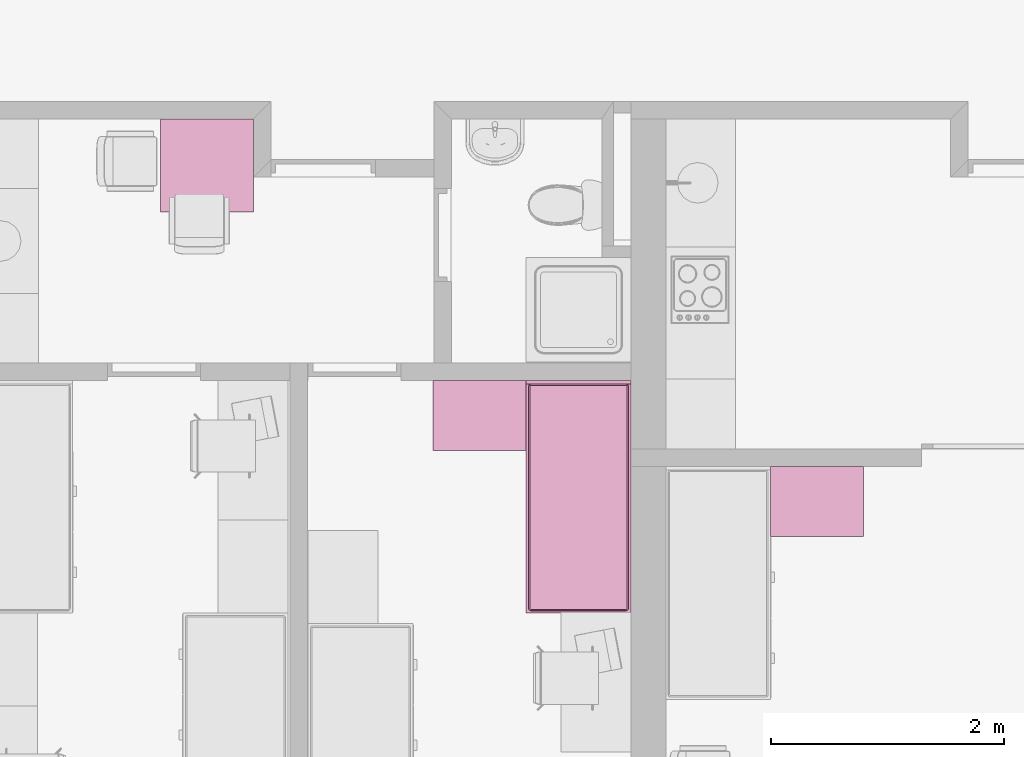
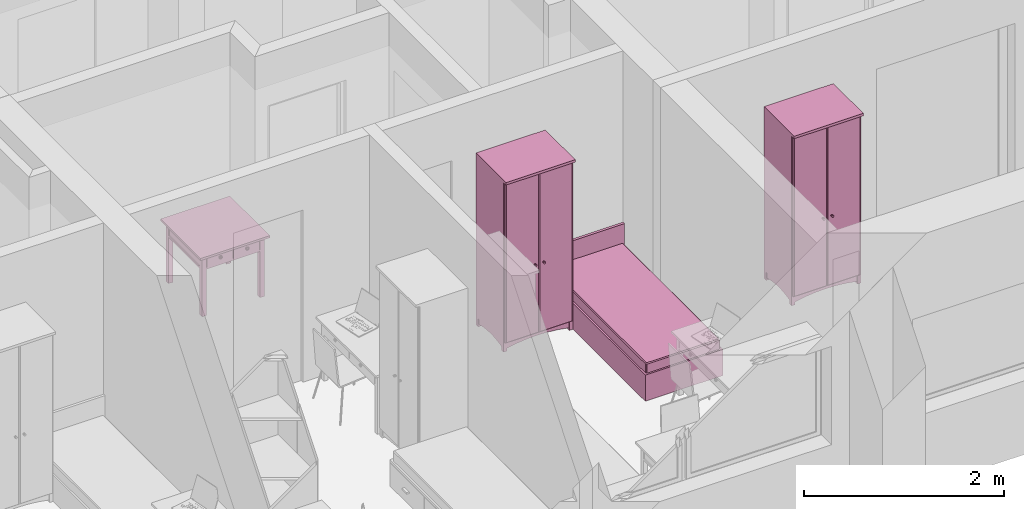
# One storey, part 118 of 172: 4 furnishings.
"""IFC2X3 building model written with IfcOpenShell, lengths in millimetres."""

from ifc_helpers import new_model, entity, si_unit, converted_unit, money_unit, direction, frame, origin_with_axes, place, context, subcontext, project, spatial, faceted_brep, source, transform, mapped, material, material_list, type_object, element, save


model = new_model("IFC2X3")

# Units and contexts
model_context = context("Model", 3, precision=1e-05, world=origin_with_axes(), true_north=direction((0.0, 1.0)))
body_context = subcontext(model_context, "Body", "Model", "MODEL_VIEW")
ifc_project = project(units=[si_unit("LENGTHUNIT", "METRE", prefix="MILLI"), si_unit("AREAUNIT", "SQUARE_METRE"), si_unit("VOLUMEUNIT", "CUBIC_METRE"), converted_unit("PLANEANGLEUNIT", "DEGREE", entity("IfcPlaneAngleMeasure", 0.0174532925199), si_unit("PLANEANGLEUNIT", "RADIAN"), dimensions=[0, 0, 0, 0, 0, 0, 0]), si_unit("SOLIDANGLEUNIT", "STERADIAN"), money_unit("USD"), converted_unit("TIMEUNIT", "Year", entity("IfcTimeMeasure", 31556926.0), si_unit("TIMEUNIT", "SECOND"), dimensions=[0, 0, 0, 0, 0, 0, 0]), si_unit("MASSUNIT", "GRAM"), si_unit("THERMODYNAMICTEMPERATUREUNIT", "DEGREE_CELSIUS"), si_unit("LUMINOUSINTENSITYUNIT", "LUMEN")], contexts=[model_context])

# Site, building, storey
site_placement = place(None, origin_with_axes())
site = spatial("IfcSite", under=ifc_project, at=site_placement, Name="Site", CompositionType="ELEMENT")
building_placement = place(site_placement, origin_with_axes())
building = spatial("IfcBuilding", under=site, at=building_placement, Name="Building", CompositionType="ELEMENT")
storey_placement = place(building_placement, frame((0.0, 0.0, 3200.0), z_axis=(0.0, 0.0, 1.0), x_axis=(1.0, 0.0, 0.0)))
storey = spatial("IfcBuildingStorey", under=building, at=storey_placement, Name="3KORRUS", CompositionType="ELEMENT", Elevation=3200.0)

# Furnishings
ifc_material = material(Name="Background")
ifc_material_list = material_list([ifc_material])
furnishing_element_type_1 = type_object("IfcFurnishingElementType", Name="Bed 19")
shared_shape_1 = source(origin_with_axes(), body_context, "Body", "Brep", [
    faceted_brep([(900.0, 1970.0, 0.0), (0.0, 1970.0, 0.0), (0.0, 2000.0, 0.0), (900.0, 2000.0, 0.0), (900.0, 1970.0, 660.0), (0.0, 1970.0, 660.0), (0.0, 2000.0, 660.0), (900.0, 2000.0, 660.0)], [[[0, 1, 2, 3]], [[1, 0, 4, 5]], [[2, 1, 5, 6]], [[3, 2, 6, 7]], [[0, 3, 7, 4]], [[5, 4, 7, 6]]]),
    faceted_brep([(900.0, 0.0, 0.0), (0.0, 0.0, 0.0), (0.0, 1970.0, 0.0), (900.0, 1970.0, 0.0), (900.0, 0.0, 320.0), (0.0, 0.0, 320.0), (0.0, 1970.0, 320.0), (900.0, 1970.0, 320.0)], [[[0, 1, 2, 3]], [[1, 0, 4, 5]], [[2, 1, 5, 6]], [[3, 2, 6, 7]], [[0, 3, 7, 4]], [[5, 4, 7, 6]]]),
    faceted_brep([(905.0, 10.0, 30.0), (900.0, 10.0, 30.0), (900.0, 695.0, 30.0), (905.0, 695.0, 30.0), (905.0, 10.0, 290.0), (900.0, 10.0, 290.0), (900.0, 695.0, 290.0), (905.0, 695.0, 290.0)], [[[0, 1, 2, 3]], [[1, 0, 4, 5]], [[2, 1, 5, 6]], [[3, 2, 6, 7]], [[0, 3, 7, 4]], [[5, 4, 7, 6]]]),
    faceted_brep([(935.0, 307.5, 150.0), (905.0, 307.5, 150.0), (905.0, 397.5, 150.0), (935.0, 397.5, 150.0), (935.0, 307.5, 170.0), (905.0, 307.5, 170.0), (905.0, 397.5, 170.0), (935.0, 397.5, 170.0)], [[[0, 1, 2, 3]], [[1, 0, 4, 5]], [[2, 1, 5, 6]], [[3, 2, 6, 7]], [[0, 3, 7, 4]], [[5, 4, 7, 6]]]),
    faceted_brep([(905.0, 705.0, 30.0), (900.0, 705.0, 30.0), (900.0, 1390.0, 30.0), (905.0, 1390.0, 30.0), (905.0, 705.0, 290.0), (900.0, 705.0, 290.0), (900.0, 1390.0, 290.0), (905.0, 1390.0, 290.0)], [[[0, 1, 2, 3]], [[1, 0, 4, 5]], [[2, 1, 5, 6]], [[3, 2, 6, 7]], [[0, 3, 7, 4]], [[5, 4, 7, 6]]]),
    faceted_brep([(935.0, 1002.5, 150.0), (905.0, 1002.5, 150.0), (905.0, 1092.5, 150.0), (935.0, 1092.5, 150.0), (935.0, 1002.5, 170.0), (905.0, 1002.5, 170.0), (905.0, 1092.5, 170.0), (935.0, 1092.5, 170.0)], [[[0, 1, 2, 3]], [[1, 0, 4, 5]], [[2, 1, 5, 6]], [[3, 2, 6, 7]], [[0, 3, 7, 4]], [[5, 4, 7, 6]]]),
    faceted_brep([(20.0, 40.0, 350.0), (20.0, 1950.0, 350.0), (21.522, 1957.654, 350.0), (25.858, 1964.142, 350.0), (32.346, 1968.478, 350.0), (40.0, 1970.0, 350.0), (860.0, 1970.0, 350.0), (867.654, 1968.478, 350.0), (874.142, 1964.142, 350.0), (878.478, 1957.654, 350.0), (880.0, 1950.0, 350.0), (880.0, 40.0, 350.0), (878.478, 32.346, 350.0), (874.142, 25.858, 350.0), (867.654, 21.522, 350.0), (860.0, 20.0, 350.0), (40.0, 20.0, 350.0), (32.346, 21.522, 350.0), (25.858, 25.858, 350.0), (21.522, 32.346, 350.0), (20.0, 40.0, 420.0), (20.0, 1950.0, 420.0), (21.522, 1957.654, 420.0), (25.858, 1964.142, 420.0), (32.346, 1968.478, 420.0), (40.0, 1970.0, 420.0), (860.0, 1970.0, 420.0), (867.654, 1968.478, 420.0), (874.142, 1964.142, 420.0), (878.478, 1957.654, 420.0), (880.0, 1950.0, 420.0), (880.0, 40.0, 420.0), (878.478, 32.346, 420.0), (874.142, 25.858, 420.0), (867.654, 21.522, 420.0), (860.0, 20.0, 420.0), (40.0, 20.0, 420.0), (32.346, 21.522, 420.0), (25.858, 25.858, 420.0), (21.522, 32.346, 420.0), (21.522, 40.15, 427.654), (21.522, 1949.85, 427.654), (22.956, 1957.06, 427.654), (26.955, 1963.045, 427.654), (32.94, 1967.044, 427.654), (40.15, 1968.478, 427.654), (859.85, 1968.478, 427.654), (867.06, 1967.044, 427.654), (873.045, 1963.045, 427.654), (877.044, 1957.06, 427.654), (878.478, 1949.85, 427.654), (878.478, 40.15, 427.654), (877.044, 32.94, 427.654), (873.045, 26.955, 427.654), (867.06, 22.956, 427.654), (859.85, 21.522, 427.654), (40.15, 21.522, 427.654), (32.94, 22.956, 427.654), (26.955, 26.955, 427.654), (22.956, 32.94, 427.654), (32.346, 41.216, 438.478), (32.346, 1948.784, 438.478), (33.152, 1952.836, 438.478), (34.759, 1955.241, 438.478), (37.164, 1956.848, 438.478), (41.216, 1957.654, 438.478), (858.784, 1957.654, 438.478), (862.836, 1956.848, 438.478), (865.241, 1955.241, 438.478), (866.848, 1952.836, 438.478), (867.654, 1948.784, 438.478), (867.654, 41.216, 438.478), (866.848, 37.164, 438.478), (865.241, 34.759, 438.478), (862.836, 33.152, 438.478), (858.784, 32.346, 438.478), (41.216, 32.346, 438.478), (37.164, 33.152, 438.478), (34.759, 34.759, 438.478), (33.152, 37.164, 438.478), (40.0, 41.97, 440.0), (40.0, 1948.03, 440.0), (40.327, 1949.673, 440.0), (40.0, 1950.0, 439.924), (41.97, 1950.0, 440.0), (858.03, 1950.0, 440.0), (859.673, 1949.673, 440.0), (860.0, 1950.0, 439.924), (860.0, 1948.03, 440.0), (860.0, 41.97, 440.0), (859.673, 40.327, 440.0), (860.0, 40.0, 439.924), (858.03, 40.0, 440.0), (41.97, 40.0, 440.0), (40.327, 40.327, 440.0), (40.0, 40.0, 439.924)], [[[0, 1, 2, 3, 4, 5, 6, 7, 8, 9, 10, 11, 12, 13, 14, 15, 16, 17, 18, 19]], [[1, 0, 20, 21]], [[2, 1, 21, 22]], [[3, 2, 22, 23]], [[4, 3, 23, 24]], [[5, 4, 24, 25]], [[6, 5, 25, 26]], [[7, 6, 26, 27]], [[8, 7, 27, 28]], [[9, 8, 28, 29]], [[10, 9, 29, 30]], [[11, 10, 30, 31]], [[12, 11, 31, 32]], [[13, 12, 32, 33]], [[14, 13, 33, 34]], [[15, 14, 34, 35]], [[16, 15, 35, 36]], [[17, 16, 36, 37]], [[18, 17, 37, 38]], [[19, 18, 38, 39]], [[0, 19, 39, 20]], [[21, 20, 40, 41]], [[22, 21, 41, 42]], [[23, 22, 42, 43]], [[24, 23, 43, 44]], [[25, 24, 44, 45]], [[26, 25, 45, 46]], [[27, 26, 46, 47]], [[28, 27, 47, 48]], [[29, 28, 48, 49]], [[30, 29, 49, 50]], [[31, 30, 50, 51]], [[32, 31, 51, 52]], [[33, 32, 52, 53]], [[34, 33, 53, 54]], [[35, 34, 54, 55]], [[36, 35, 55, 56]], [[37, 36, 56, 57]], [[38, 37, 57, 58]], [[39, 38, 58, 59]], [[20, 39, 59, 40]], [[41, 40, 60, 61]], [[42, 41, 61, 62]], [[43, 42, 62, 63]], [[44, 43, 63, 64]], [[45, 44, 64, 65]], [[46, 45, 65, 66]], [[47, 46, 66, 67]], [[48, 47, 67, 68]], [[49, 48, 68, 69]], [[50, 49, 69, 70]], [[51, 50, 70, 71]], [[52, 51, 71, 72]], [[53, 52, 72, 73]], [[54, 53, 73, 74]], [[55, 54, 74, 75]], [[56, 55, 75, 76]], [[57, 56, 76, 77]], [[58, 57, 77, 78]], [[59, 58, 78, 79]], [[40, 59, 79, 60]], [[61, 60, 80, 81]], [[62, 61, 81, 82, 83]], [[63, 62, 83]], [[64, 63, 83]], [[65, 64, 83, 82, 84]], [[66, 65, 84, 85]], [[67, 66, 85, 86, 87]], [[68, 67, 87]], [[69, 68, 87]], [[70, 69, 87, 86, 88]], [[71, 70, 88, 89]], [[72, 71, 89, 90, 91]], [[73, 72, 91]], [[74, 73, 91]], [[75, 74, 91, 90, 92]], [[76, 75, 92, 93]], [[77, 76, 93, 94, 95]], [[78, 77, 95]], [[79, 78, 95]], [[60, 79, 95, 94, 80]], [[81, 80, 94, 93, 92, 90, 89, 88, 86, 85, 84, 82]]]),
    faceted_brep([(20.0, 40.0, 350.0), (21.522, 32.346, 350.0), (25.858, 25.858, 350.0), (32.346, 21.522, 350.0), (40.0, 20.0, 350.0), (860.0, 20.0, 350.0), (867.654, 21.522, 350.0), (874.142, 25.858, 350.0), (878.478, 32.346, 350.0), (880.0, 40.0, 350.0), (880.0, 1950.0, 350.0), (878.478, 1957.654, 350.0), (874.142, 1964.142, 350.0), (867.654, 1968.478, 350.0), (860.0, 1970.0, 350.0), (40.0, 1970.0, 350.0), (32.346, 1968.478, 350.0), (25.858, 1964.142, 350.0), (21.522, 1957.654, 350.0), (20.0, 1950.0, 350.0), (20.0, 40.0, 320.0), (21.522, 32.346, 320.0), (25.858, 25.858, 320.0), (32.346, 21.522, 320.0), (40.0, 20.0, 320.0), (860.0, 20.0, 320.0), (867.654, 21.522, 320.0), (874.142, 25.858, 320.0), (878.478, 32.346, 320.0), (880.0, 40.0, 320.0), (880.0, 1950.0, 320.0), (878.478, 1957.654, 320.0), (874.142, 1964.142, 320.0), (867.654, 1968.478, 320.0), (860.0, 1970.0, 320.0), (40.0, 1970.0, 320.0), (32.346, 1968.478, 320.0), (25.858, 1964.142, 320.0), (21.522, 1957.654, 320.0), (20.0, 1950.0, 320.0)], [[[0, 1, 2, 3, 4, 5, 6, 7, 8, 9, 10, 11, 12, 13, 14, 15, 16, 17, 18, 19]], [[0, 20, 21, 1]], [[1, 21, 22, 2]], [[2, 22, 23, 3]], [[3, 23, 24, 4]], [[4, 24, 25, 5]], [[5, 25, 26, 6]], [[6, 26, 27, 7]], [[7, 27, 28, 8]], [[8, 28, 29, 9]], [[9, 29, 30, 10]], [[10, 30, 31, 11]], [[11, 31, 32, 12]], [[12, 32, 33, 13]], [[13, 33, 34, 14]], [[14, 34, 35, 15]], [[15, 35, 36, 16]], [[16, 36, 37, 17]], [[17, 37, 38, 18]], [[18, 38, 39, 19]], [[19, 39, 20, 0]], [[20, 39, 38, 37, 36, 35, 34, 33, 32, 31, 30, 29, 28, 27, 26, 25, 24, 23, 22, 21]]]),
])
furnishing_1_placement = place(storey_placement, frame((-19190.2967033, -17439.2398994, 0.0), z_axis=(0.0, 0.0, 1.0), x_axis=(1.0, 0.0, 0.0)))
element("IfcFurnishingElement", 1, at=furnishing_1_placement, inside=storey, type_object=furnishing_element_type_1, material=ifc_material_list, Name="FU - 013", context=body_context, shape_type="MappedRepresentation", body=[
    mapped(shared_shape_1, transform((0.0, 0.0, 0.0))),
])
furnishing_element_type_2 = type_object("IfcFurnishingElementType", Name="Cupboard 19")
shared_shape_2 = source(origin_with_axes(), body_context, "Body", "Brep", [
    faceted_brep([(780.0, 600.0, 120.0), (780.0, 600.0, 2050.0), (780.0, 580.0, 2050.0), (780.0, 580.0, 120.0), (20.0, 600.0, 120.0), (20.0, 600.0, 2050.0), (20.0, 580.0, 2050.0), (20.0, 580.0, 120.0)], [[[0, 1, 2, 3]], [[4, 5, 1, 0]], [[1, 5, 6, 2]], [[3, 2, 6, 7]], [[0, 3, 7, 4]], [[7, 6, 5, 4]]]),
    faceted_brep([(0.0, 50.0, 100.0), (0.0, 600.0, 100.0), (20.0, 600.0, 100.0), (20.0, 50.0, 100.0), (0.0, 50.0, 2070.0), (0.0, 600.0, 2070.0), (20.0, 600.0, 2070.0), (20.0, 50.0, 2070.0)], [[[0, 1, 2, 3]], [[0, 4, 5, 1]], [[1, 5, 6, 2]], [[2, 6, 7, 3]], [[3, 7, 4, 0]], [[7, 6, 5, 4]]]),
    faceted_brep([(780.0, 50.0, 100.0), (780.0, 600.0, 100.0), (800.0, 600.0, 100.0), (800.0, 50.0, 100.0), (780.0, 50.0, 2070.0), (780.0, 600.0, 2070.0), (800.0, 600.0, 2070.0), (800.0, 50.0, 2070.0)], [[[0, 1, 2, 3]], [[0, 4, 5, 1]], [[1, 5, 6, 2]], [[2, 6, 7, 3]], [[3, 7, 4, 0]], [[7, 6, 5, 4]]]),
    faceted_brep([(20.0, 50.0, 100.0), (20.0, 600.0, 100.0), (780.0, 600.0, 100.0), (780.0, 50.0, 100.0), (20.0, 50.0, 120.0), (20.0, 600.0, 120.0), (780.0, 600.0, 120.0), (780.0, 50.0, 120.0)], [[[0, 1, 2, 3]], [[0, 4, 5, 1]], [[1, 5, 6, 2]], [[2, 6, 7, 3]], [[3, 7, 4, 0]], [[7, 6, 5, 4]]]),
    faceted_brep([(20.0, 50.0, 2050.0), (20.0, 600.0, 2050.0), (780.0, 600.0, 2050.0), (780.0, 50.0, 2050.0), (20.0, 50.0, 2070.0), (20.0, 600.0, 2070.0), (780.0, 600.0, 2070.0), (780.0, 50.0, 2070.0)], [[[0, 1, 2, 3]], [[0, 4, 5, 1]], [[1, 5, 6, 2]], [[2, 6, 7, 3]], [[3, 7, 4, 0]], [[7, 6, 5, 4]]]),
    faceted_brep([(0.0, 600.0, 2070.0), (0.0, 0.0, 2070.0), (0.0, 0.0, 2100.0), (0.0, 600.0, 2100.0), (800.0, 600.0, 2070.0), (800.0, 0.0, 2070.0), (800.0, 0.0, 2100.0), (800.0, 600.0, 2100.0)], [[[0, 1, 2, 3]], [[0, 4, 5, 1]], [[1, 5, 6, 2]], [[3, 2, 6, 7]], [[4, 0, 3, 7]], [[5, 4, 7, 6]]]),
    faceted_brep([(760.0, 590.0, 25.0), (760.0, 570.0, 25.0), (640.962, 570.0, 45.8), (640.962, 590.0, 45.8), (760.0, 590.0, 100.0), (760.0, 570.0, 100.0), (40.0, 570.0, 100.0), (40.0, 570.0, 25.0), (159.038, 570.0, 45.8), (279.23, 570.0, 58.32), (400.0, 570.0, 62.5), (520.77, 570.0, 58.32), (520.77, 590.0, 58.32), (400.0, 590.0, 62.5), (279.23, 590.0, 58.32), (159.038, 590.0, 45.8), (40.0, 590.0, 25.0), (40.0, 590.0, 100.0)], [[[0, 1, 2, 3]], [[4, 5, 1, 0]], [[1, 5, 6, 7, 8, 9, 10, 11, 2]], [[3, 2, 11, 12]], [[0, 3, 12, 13, 14, 15, 16, 17, 4]], [[17, 6, 5, 4]], [[16, 7, 6, 17]], [[15, 8, 7, 16]], [[14, 9, 8, 15]], [[13, 10, 9, 14]], [[12, 11, 10, 13]]]),
    faceted_brep([(760.0, 80.0, 25.0), (760.0, 60.0, 25.0), (640.962, 60.0, 45.8), (640.962, 80.0, 45.8), (760.0, 80.0, 100.0), (760.0, 60.0, 100.0), (40.0, 60.0, 100.0), (40.0, 60.0, 25.0), (159.038, 60.0, 45.8), (279.23, 60.0, 58.32), (400.0, 60.0, 62.5), (520.77, 60.0, 58.32), (520.77, 80.0, 58.32), (400.0, 80.0, 62.5), (279.23, 80.0, 58.32), (159.038, 80.0, 45.8), (40.0, 80.0, 25.0), (40.0, 80.0, 100.0)], [[[0, 1, 2, 3]], [[4, 5, 1, 0]], [[1, 5, 6, 7, 8, 9, 10, 11, 2]], [[3, 2, 11, 12]], [[0, 3, 12, 13, 14, 15, 16, 17, 4]], [[17, 6, 5, 4]], [[16, 7, 6, 17]], [[15, 8, 7, 16]], [[14, 9, 8, 15]], [[13, 10, 9, 14]], [[12, 11, 10, 13]]]),
    faceted_brep([(790.0, 90.0, 25.0), (770.0, 90.0, 25.0), (770.0, 141.266, 38.072), (790.0, 141.266, 38.072), (790.0, 90.0, 100.0), (770.0, 90.0, 100.0), (770.0, 560.0, 100.0), (770.0, 560.0, 25.0), (770.0, 508.734, 38.072), (770.0, 456.752, 47.92), (770.0, 404.257, 54.508), (770.0, 351.453, 57.808), (770.0, 298.547, 57.808), (770.0, 245.743, 54.508), (770.0, 193.248, 47.92), (790.0, 193.248, 47.92), (790.0, 245.743, 54.508), (790.0, 298.547, 57.808), (790.0, 351.453, 57.808), (790.0, 404.257, 54.508), (790.0, 456.752, 47.92), (790.0, 508.734, 38.072), (790.0, 560.0, 25.0), (790.0, 560.0, 100.0)], [[[0, 1, 2, 3]], [[4, 5, 1, 0]], [[1, 5, 6, 7, 8, 9, 10, 11, 12, 13, 14, 2]], [[3, 2, 14, 15]], [[0, 3, 15, 16, 17, 18, 19, 20, 21, 22, 23, 4]], [[23, 6, 5, 4]], [[22, 7, 6, 23]], [[21, 8, 7, 22]], [[20, 9, 8, 21]], [[19, 10, 9, 20]], [[18, 11, 10, 19]], [[17, 12, 11, 18]], [[16, 13, 12, 17]], [[15, 14, 13, 16]]]),
    faceted_brep([(30.0, 90.0, 25.0), (10.0, 90.0, 25.0), (10.0, 141.266, 38.072), (30.0, 141.266, 38.072), (30.0, 90.0, 100.0), (10.0, 90.0, 100.0), (10.0, 560.0, 100.0), (10.0, 560.0, 25.0), (10.0, 508.734, 38.072), (10.0, 456.752, 47.92), (10.0, 404.257, 54.508), (10.0, 351.453, 57.808), (10.0, 298.547, 57.808), (10.0, 245.743, 54.508), (10.0, 193.248, 47.92), (30.0, 193.248, 47.92), (30.0, 245.743, 54.508), (30.0, 298.547, 57.808), (30.0, 351.453, 57.808), (30.0, 404.257, 54.508), (30.0, 456.752, 47.92), (30.0, 508.734, 38.072), (30.0, 560.0, 25.0), (30.0, 560.0, 100.0)], [[[0, 1, 2, 3]], [[4, 5, 1, 0]], [[1, 5, 6, 7, 8, 9, 10, 11, 12, 13, 14, 2]], [[3, 2, 14, 15]], [[0, 3, 15, 16, 17, 18, 19, 20, 21, 22, 23, 4]], [[23, 6, 5, 4]], [[22, 7, 6, 23]], [[21, 8, 7, 22]], [[20, 9, 8, 21]], [[19, 10, 9, 20]], [[18, 11, 10, 19]], [[17, 12, 11, 18]], [[16, 13, 12, 17]], [[15, 14, 13, 16]]]),
    faceted_brep([(760.0, 560.0, 0.0), (760.0, 560.0, 100.0), (760.0, 600.0, 100.0), (760.0, 600.0, 0.0), (800.0, 560.0, 0.0), (800.0, 560.0, 100.0), (800.0, 600.0, 100.0), (800.0, 600.0, 0.0)], [[[0, 1, 2, 3]], [[4, 5, 1, 0]], [[1, 5, 6, 2]], [[3, 2, 6, 7]], [[0, 3, 7, 4]], [[7, 6, 5, 4]]]),
    faceted_brep([(0.0, 560.0, 0.0), (0.0, 560.0, 100.0), (0.0, 600.0, 100.0), (0.0, 600.0, 0.0), (40.0, 560.0, 0.0), (40.0, 560.0, 100.0), (40.0, 600.0, 100.0), (40.0, 600.0, 0.0)], [[[0, 1, 2, 3]], [[4, 5, 1, 0]], [[1, 5, 6, 2]], [[3, 2, 6, 7]], [[0, 3, 7, 4]], [[7, 6, 5, 4]]]),
    faceted_brep([(760.0, 50.0, 0.0), (760.0, 50.0, 100.0), (760.0, 90.0, 100.0), (760.0, 90.0, 0.0), (800.0, 50.0, 0.0), (800.0, 50.0, 100.0), (800.0, 90.0, 100.0), (800.0, 90.0, 0.0)], [[[0, 1, 2, 3]], [[4, 5, 1, 0]], [[1, 5, 6, 2]], [[3, 2, 6, 7]], [[0, 3, 7, 4]], [[7, 6, 5, 4]]]),
    faceted_brep([(0.0, 50.0, 0.0), (0.0, 50.0, 100.0), (0.0, 90.0, 100.0), (0.0, 90.0, 0.0), (40.0, 50.0, 0.0), (40.0, 50.0, 100.0), (40.0, 90.0, 100.0), (40.0, 90.0, 0.0)], [[[0, 1, 2, 3]], [[4, 5, 1, 0]], [[1, 5, 6, 2]], [[3, 2, 6, 7]], [[0, 3, 7, 4]], [[7, 6, 5, 4]]]),
    faceted_brep([(780.0, 580.0, 587.5), (780.0, 580.0, 607.5), (780.0, 50.0, 607.5), (780.0, 50.0, 587.5), (20.0, 580.0, 587.5), (20.0, 580.0, 607.5), (20.0, 50.0, 607.5), (20.0, 50.0, 587.5)], [[[0, 1, 2, 3]], [[4, 5, 1, 0]], [[1, 5, 6, 2]], [[3, 2, 6, 7]], [[0, 3, 7, 4]], [[7, 6, 5, 4]]]),
    faceted_brep([(780.0, 580.0, 1075.0), (780.0, 580.0, 1095.0), (780.0, 50.0, 1095.0), (780.0, 50.0, 1075.0), (20.0, 580.0, 1075.0), (20.0, 580.0, 1095.0), (20.0, 50.0, 1095.0), (20.0, 50.0, 1075.0)], [[[0, 1, 2, 3]], [[4, 5, 1, 0]], [[1, 5, 6, 2]], [[3, 2, 6, 7]], [[0, 3, 7, 4]], [[7, 6, 5, 4]]]),
    faceted_brep([(780.0, 580.0, 1562.5), (780.0, 580.0, 1582.5), (780.0, 50.0, 1582.5), (780.0, 50.0, 1562.5), (20.0, 580.0, 1562.5), (20.0, 580.0, 1582.5), (20.0, 50.0, 1582.5), (20.0, 50.0, 1562.5)], [[[0, 1, 2, 3]], [[4, 5, 1, 0]], [[1, 5, 6, 2]], [[3, 2, 6, 7]], [[0, 3, 7, 4]], [[7, 6, 5, 4]]]),
    faceted_brep([(789.5, 50.0, 110.5), (400.5, 50.0, 110.5), (400.5, 50.0, 2059.5), (789.5, 50.0, 2059.5), (789.5, 40.0, 110.5), (400.5, 40.0, 110.5), (400.5, 40.0, 2059.5), (789.5, 40.0, 2059.5), (779.5, 30.0, 120.5), (410.5, 30.0, 120.5), (410.5, 30.0, 2049.5), (779.5, 30.0, 2049.5)], [[[0, 1, 2, 3]], [[0, 4, 5, 1]], [[1, 5, 6, 2]], [[2, 6, 7, 3]], [[3, 7, 4, 0]], [[4, 8, 9, 5]], [[5, 9, 10, 6]], [[6, 10, 11, 7]], [[7, 11, 8, 4]], [[10, 9, 8, 11]]]),
    faceted_brep([(399.5, 50.0, 110.5), (10.5, 50.0, 110.5), (10.5, 50.0, 2059.5), (399.5, 50.0, 2059.5), (399.5, 40.0, 110.5), (10.5, 40.0, 110.5), (10.5, 40.0, 2059.5), (399.5, 40.0, 2059.5), (389.5, 30.0, 120.5), (20.5, 30.0, 120.5), (20.5, 30.0, 2049.5), (389.5, 30.0, 2049.5)], [[[0, 1, 2, 3]], [[0, 4, 5, 1]], [[1, 5, 6, 2]], [[2, 6, 7, 3]], [[3, 7, 4, 0]], [[4, 8, 9, 5]], [[5, 9, 10, 6]], [[6, 10, 11, 7]], [[7, 11, 8, 4]], [[10, 9, 8, 11]]]),
    faceted_brep([(339.608, 30.0, 954.0), (338.0, 30.0, 960.0), (339.608, 30.0, 966.0), (344.0, 30.0, 970.392), (350.0, 30.0, 972.0), (356.0, 30.0, 970.392), (360.392, 30.0, 966.0), (362.0, 30.0, 960.0), (360.392, 30.0, 954.0), (356.0, 30.0, 949.608), (350.0, 30.0, 948.0), (344.0, 30.0, 949.608), (339.608, 5.0, 954.0), (338.0, 5.0, 960.0), (339.608, 5.0, 966.0), (344.0, 5.0, 970.392), (350.0, 5.0, 972.0), (356.0, 5.0, 970.392), (360.392, 5.0, 966.0), (362.0, 5.0, 960.0), (360.392, 5.0, 954.0), (356.0, 5.0, 949.608), (350.0, 5.0, 948.0), (344.0, 5.0, 949.608)], [[[0, 1, 2, 3, 4, 5, 6, 7, 8, 9, 10, 11]], [[0, 12, 13, 1]], [[1, 13, 14, 2]], [[2, 14, 15, 3]], [[3, 15, 16, 4]], [[4, 16, 17, 5]], [[5, 17, 18, 6]], [[6, 18, 19, 7]], [[7, 19, 20, 8]], [[8, 20, 21, 9]], [[9, 21, 22, 10]], [[10, 22, 23, 11]], [[11, 23, 12, 0]], [[12, 23, 22, 21, 20, 19, 18, 17, 16, 15, 14, 13]]]),
    faceted_brep([(460.392, 30.0, 954.0), (456.0, 30.0, 949.608), (450.0, 30.0, 948.0), (444.0, 30.0, 949.608), (439.608, 30.0, 954.0), (438.0, 30.0, 960.0), (439.608, 30.0, 966.0), (444.0, 30.0, 970.392), (450.0, 30.0, 972.0), (456.0, 30.0, 970.392), (460.392, 30.0, 966.0), (462.0, 30.0, 960.0), (460.392, 5.0, 954.0), (456.0, 5.0, 949.608), (450.0, 5.0, 948.0), (444.0, 5.0, 949.608), (439.608, 5.0, 954.0), (438.0, 5.0, 960.0), (439.608, 5.0, 966.0), (444.0, 5.0, 970.392), (450.0, 5.0, 972.0), (456.0, 5.0, 970.392), (460.392, 5.0, 966.0), (462.0, 5.0, 960.0)], [[[0, 1, 2, 3, 4, 5, 6, 7, 8, 9, 10, 11]], [[1, 0, 12, 13]], [[2, 1, 13, 14]], [[3, 2, 14, 15]], [[4, 3, 15, 16]], [[5, 4, 16, 17]], [[6, 5, 17, 18]], [[7, 6, 18, 19]], [[8, 7, 19, 20]], [[9, 8, 20, 21]], [[10, 9, 21, 22]], [[11, 10, 22, 23]], [[0, 11, 23, 12]], [[12, 23, 22, 21, 20, 19, 18, 17, 16, 15, 14, 13]]]),
])
for number, where, z_axis, x_axis, name in (
    (2, (-17090.7559897, -16779.7357921, 0.0), (0.0, 0.0, 1.0), (1.0, 0.0, 0.0), "FU - 014"),
    (3, (-19990.2967033, -16039.2398994, 0.0), (0.0, 0.0, 1.0), (1.0, 0.0, 0.0), "FU - 014"),
):
    element("IfcFurnishingElement", number, at=place(storey_placement, frame(where, z_axis=z_axis, x_axis=x_axis)), inside=storey, type_object=furnishing_element_type_2, material=ifc_material_list, Name=name, context=body_context, shape_type="MappedRepresentation", body=[
        mapped(shared_shape_2, transform((0.0, 0.0, 0.0))),
    ])
furnishing_element_type_3 = type_object("IfcFurnishingElementType", Name="Rectangular Table 01 19")
shared_shape_3 = source(origin_with_axes(), body_context, "Body", "Brep", [
    faceted_brep([(90.0, 40.0, 0.0), (40.0, 40.0, 0.0), (40.0, 90.0, 0.0), (90.0, 90.0, 0.0), (90.0, 40.0, 725.0), (40.0, 40.0, 725.0), (40.0, 90.0, 725.0), (90.0, 90.0, 725.0)], [[[0, 1, 2, 3]], [[1, 0, 4, 5]], [[2, 1, 5, 6]], [[3, 2, 6, 7]], [[0, 3, 7, 4]], [[5, 4, 7, 6]]]),
    faceted_brep([(760.0, 40.0, 0.0), (710.0, 40.0, 0.0), (710.0, 90.0, 0.0), (760.0, 90.0, 0.0), (760.0, 40.0, 725.0), (710.0, 40.0, 725.0), (710.0, 90.0, 725.0), (760.0, 90.0, 725.0)], [[[0, 1, 2, 3]], [[1, 0, 4, 5]], [[2, 1, 5, 6]], [[3, 2, 6, 7]], [[0, 3, 7, 4]], [[5, 4, 7, 6]]]),
    faceted_brep([(90.0, 710.0, 0.0), (40.0, 710.0, 0.0), (40.0, 760.0, 0.0), (90.0, 760.0, 0.0), (90.0, 710.0, 725.0), (40.0, 710.0, 725.0), (40.0, 760.0, 725.0), (90.0, 760.0, 725.0)], [[[0, 1, 2, 3]], [[1, 0, 4, 5]], [[2, 1, 5, 6]], [[3, 2, 6, 7]], [[0, 3, 7, 4]], [[5, 4, 7, 6]]]),
    faceted_brep([(760.0, 710.0, 0.0), (710.0, 710.0, 0.0), (710.0, 760.0, 0.0), (760.0, 760.0, 0.0), (760.0, 710.0, 725.0), (710.0, 710.0, 725.0), (710.0, 760.0, 725.0), (760.0, 760.0, 725.0)], [[[0, 1, 2, 3]], [[1, 0, 4, 5]], [[2, 1, 5, 6]], [[3, 2, 6, 7]], [[0, 3, 7, 4]], [[5, 4, 7, 6]]]),
    faceted_brep([(760.0, 40.0, 565.0), (40.0, 40.0, 565.0), (40.0, 760.0, 565.0), (760.0, 760.0, 565.0), (760.0, 40.0, 585.0), (40.0, 40.0, 585.0), (40.0, 760.0, 585.0), (760.0, 760.0, 585.0)], [[[0, 1, 2, 3]], [[1, 0, 4, 5]], [[2, 1, 5, 6]], [[3, 2, 6, 7]], [[0, 3, 7, 4]], [[5, 4, 7, 6]]]),
    faceted_brep([(710.0, 52.5, 585.0), (90.0, 52.5, 585.0), (90.0, 77.5, 585.0), (710.0, 77.5, 585.0), (710.0, 52.5, 745.0), (90.0, 52.5, 745.0), (90.0, 77.5, 745.0), (710.0, 77.5, 745.0)], [[[0, 1, 2, 3]], [[1, 0, 4, 5]], [[2, 1, 5, 6]], [[3, 2, 6, 7]], [[0, 3, 7, 4]], [[5, 4, 7, 6]]]),
    faceted_brep([(77.5, 90.0, 585.0), (52.5, 90.0, 585.0), (52.5, 710.0, 585.0), (77.5, 710.0, 585.0), (77.5, 90.0, 745.0), (52.5, 90.0, 745.0), (52.5, 710.0, 745.0), (77.5, 710.0, 745.0)], [[[0, 1, 2, 3]], [[1, 0, 4, 5]], [[2, 1, 5, 6]], [[3, 2, 6, 7]], [[0, 3, 7, 4]], [[5, 4, 7, 6]]]),
    faceted_brep([(90.0, 747.5, 585.0), (710.0, 747.5, 585.0), (710.0, 722.5, 585.0), (90.0, 722.5, 585.0), (90.0, 747.5, 745.0), (710.0, 747.5, 745.0), (710.0, 722.5, 745.0), (90.0, 722.5, 745.0)], [[[0, 1, 2, 3]], [[1, 0, 4, 5]], [[2, 1, 5, 6]], [[3, 2, 6, 7]], [[0, 3, 7, 4]], [[5, 4, 7, 6]]]),
    faceted_brep([(722.5, 710.0, 585.0), (747.5, 710.0, 585.0), (747.5, 90.0, 585.0), (722.5, 90.0, 585.0), (722.5, 710.0, 745.0), (747.5, 710.0, 745.0), (747.5, 90.0, 745.0), (722.5, 90.0, 745.0)], [[[0, 1, 2, 3]], [[1, 0, 4, 5]], [[2, 1, 5, 6]], [[3, 2, 6, 7]], [[0, 3, 7, 4]], [[5, 4, 7, 6]]]),
    faceted_brep([(397.5, 40.0, 585.0), (95.0, 40.0, 585.0), (95.0, 60.0, 585.0), (397.5, 60.0, 585.0), (397.5, 40.0, 745.0), (95.0, 40.0, 745.0), (95.0, 60.0, 745.0), (397.5, 60.0, 745.0)], [[[0, 1, 2, 3]], [[1, 0, 4, 5]], [[2, 1, 5, 6]], [[3, 2, 6, 7]], [[0, 3, 7, 4]], [[5, 4, 7, 6]]]),
    faceted_brep([(705.0, 40.0, 585.0), (402.5, 40.0, 585.0), (402.5, 60.0, 585.0), (705.0, 60.0, 585.0), (705.0, 40.0, 745.0), (402.5, 40.0, 745.0), (402.5, 60.0, 745.0), (705.0, 60.0, 745.0)], [[[0, 1, 2, 3]], [[1, 0, 4, 5]], [[2, 1, 5, 6]], [[3, 2, 6, 7]], [[0, 3, 7, 4]], [[5, 4, 7, 6]]]),
    faceted_brep([(254.91, 40.0, 660.0), (251.25, 40.0, 656.34), (246.25, 40.0, 655.0), (241.25, 40.0, 656.34), (237.59, 40.0, 660.0), (236.25, 40.0, 665.0), (237.59, 40.0, 670.0), (241.25, 40.0, 673.66), (246.25, 40.0, 675.0), (251.25, 40.0, 673.66), (254.91, 40.0, 670.0), (256.25, 40.0, 665.0), (254.91, 25.0, 660.0), (251.25, 25.0, 656.34), (246.25, 25.0, 655.0), (241.25, 25.0, 656.34), (237.59, 25.0, 660.0), (236.25, 25.0, 665.0), (237.59, 25.0, 670.0), (241.25, 25.0, 673.66), (246.25, 25.0, 675.0), (251.25, 25.0, 673.66), (254.91, 25.0, 670.0), (256.25, 25.0, 665.0)], [[[0, 1, 2, 3, 4, 5, 6, 7, 8, 9, 10, 11]], [[1, 0, 12, 13]], [[2, 1, 13, 14]], [[3, 2, 14, 15]], [[4, 3, 15, 16]], [[5, 4, 16, 17]], [[6, 5, 17, 18]], [[7, 6, 18, 19]], [[8, 7, 19, 20]], [[9, 8, 20, 21]], [[10, 9, 21, 22]], [[11, 10, 22, 23]], [[0, 11, 23, 12]], [[12, 23, 22, 21, 20, 19, 18, 17, 16, 15, 14, 13]]]),
    faceted_brep([(256.25, 12.01, 665.0), (246.25, 10.0, 665.0), (254.91, 12.01, 660.0), (254.91, 12.01, 670.0), (251.25, 12.01, 656.34), (263.571, 17.5, 665.0), (261.25, 17.5, 656.34), (251.25, 12.01, 673.66), (261.25, 17.5, 673.66), (246.25, 12.01, 655.0), (254.91, 17.5, 650.0), (266.25, 25.0, 665.0), (263.571, 25.0, 655.0), (246.25, 12.01, 675.0), (254.91, 17.5, 680.0), (263.571, 25.0, 675.0), (241.25, 12.01, 656.34), (246.25, 17.5, 647.679), (256.25, 25.0, 647.679), (246.25, 25.0, 645.0), (236.25, 25.0, 647.679), (228.929, 25.0, 655.0), (226.25, 25.0, 665.0), (228.929, 25.0, 675.0), (236.25, 25.0, 682.321), (246.25, 25.0, 685.0), (256.25, 25.0, 682.321), (241.25, 12.01, 673.66), (246.25, 17.5, 682.321), (237.59, 12.01, 660.0), (237.59, 17.5, 650.0), (231.25, 17.5, 656.34), (228.929, 17.5, 665.0), (231.25, 17.5, 673.66), (237.59, 17.5, 680.0), (237.59, 12.01, 670.0), (236.25, 12.01, 665.0)], [[[0, 1, 2]], [[3, 1, 0]], [[2, 1, 4]], [[5, 0, 2, 6]], [[7, 1, 3]], [[8, 3, 0, 5]], [[4, 1, 9]], [[6, 2, 4, 10]], [[11, 5, 6, 12]], [[13, 1, 7]], [[14, 7, 3, 8]], [[15, 8, 5, 11]], [[9, 1, 16]], [[10, 4, 9, 17]], [[12, 6, 10, 18]], [[12, 18, 19, 20, 21, 22, 23, 24, 25, 26, 15, 11]], [[27, 1, 13]], [[28, 13, 7, 14]], [[26, 14, 8, 15]], [[16, 1, 29]], [[17, 9, 16, 30]], [[18, 10, 17, 19]], [[19, 17, 30, 20]], [[20, 30, 31, 21]], [[21, 31, 32, 22]], [[22, 32, 33, 23]], [[23, 33, 34, 24]], [[24, 34, 28, 25]], [[25, 28, 14, 26]], [[35, 1, 27]], [[34, 27, 13, 28]], [[29, 1, 36]], [[30, 16, 29, 31]], [[31, 29, 36, 32]], [[32, 36, 35, 33]], [[33, 35, 27, 34]], [[36, 1, 35]]]),
    faceted_brep([(562.41, 40.0, 660.0), (558.75, 40.0, 656.34), (553.75, 40.0, 655.0), (548.75, 40.0, 656.34), (545.09, 40.0, 660.0), (543.75, 40.0, 665.0), (545.09, 40.0, 670.0), (548.75, 40.0, 673.66), (553.75, 40.0, 675.0), (558.75, 40.0, 673.66), (562.41, 40.0, 670.0), (563.75, 40.0, 665.0), (562.41, 25.0, 660.0), (558.75, 25.0, 656.34), (553.75, 25.0, 655.0), (548.75, 25.0, 656.34), (545.09, 25.0, 660.0), (543.75, 25.0, 665.0), (545.09, 25.0, 670.0), (548.75, 25.0, 673.66), (553.75, 25.0, 675.0), (558.75, 25.0, 673.66), (562.41, 25.0, 670.0), (563.75, 25.0, 665.0)], [[[0, 1, 2, 3, 4, 5, 6, 7, 8, 9, 10, 11]], [[1, 0, 12, 13]], [[2, 1, 13, 14]], [[3, 2, 14, 15]], [[4, 3, 15, 16]], [[5, 4, 16, 17]], [[6, 5, 17, 18]], [[7, 6, 18, 19]], [[8, 7, 19, 20]], [[9, 8, 20, 21]], [[10, 9, 21, 22]], [[11, 10, 22, 23]], [[0, 11, 23, 12]], [[12, 23, 22, 21, 20, 19, 18, 17, 16, 15, 14, 13]]]),
    faceted_brep([(563.75, 12.01, 665.0), (553.75, 10.0, 665.0), (562.41, 12.01, 660.0), (562.41, 12.01, 670.0), (558.75, 12.01, 656.34), (571.071, 17.5, 665.0), (568.75, 17.5, 656.34), (558.75, 12.01, 673.66), (568.75, 17.5, 673.66), (553.75, 12.01, 655.0), (562.41, 17.5, 650.0), (573.75, 25.0, 665.0), (571.071, 25.0, 655.0), (553.75, 12.01, 675.0), (562.41, 17.5, 680.0), (571.071, 25.0, 675.0), (548.75, 12.01, 656.34), (553.75, 17.5, 647.679), (563.75, 25.0, 647.679), (553.75, 25.0, 645.0), (543.75, 25.0, 647.679), (536.429, 25.0, 655.0), (533.75, 25.0, 665.0), (536.429, 25.0, 675.0), (543.75, 25.0, 682.321), (553.75, 25.0, 685.0), (563.75, 25.0, 682.321), (548.75, 12.01, 673.66), (553.75, 17.5, 682.321), (545.09, 12.01, 660.0), (545.09, 17.5, 650.0), (538.75, 17.5, 656.34), (536.429, 17.5, 665.0), (538.75, 17.5, 673.66), (545.09, 17.5, 680.0), (545.09, 12.01, 670.0), (543.75, 12.01, 665.0)], [[[0, 1, 2]], [[3, 1, 0]], [[2, 1, 4]], [[5, 0, 2, 6]], [[7, 1, 3]], [[8, 3, 0, 5]], [[4, 1, 9]], [[6, 2, 4, 10]], [[11, 5, 6, 12]], [[13, 1, 7]], [[14, 7, 3, 8]], [[15, 8, 5, 11]], [[9, 1, 16]], [[10, 4, 9, 17]], [[12, 6, 10, 18]], [[12, 18, 19, 20, 21, 22, 23, 24, 25, 26, 15, 11]], [[27, 1, 13]], [[28, 13, 7, 14]], [[26, 14, 8, 15]], [[16, 1, 29]], [[17, 9, 16, 30]], [[18, 10, 17, 19]], [[19, 17, 30, 20]], [[20, 30, 31, 21]], [[21, 31, 32, 22]], [[22, 32, 33, 23]], [[23, 33, 34, 24]], [[24, 34, 28, 25]], [[25, 28, 14, 26]], [[35, 1, 27]], [[34, 27, 13, 28]], [[29, 1, 36]], [[30, 16, 29, 31]], [[31, 29, 36, 32]], [[32, 36, 35, 33]], [[33, 35, 27, 34]], [[36, 1, 35]]]),
    faceted_brep([(800.0, 0.0, 725.0), (0.0, 0.0, 725.0), (0.0, 800.0, 725.0), (800.0, 800.0, 725.0), (800.0, 0.0, 750.0), (0.0, 0.0, 750.0), (0.0, 800.0, 750.0), (800.0, 800.0, 750.0)], [[[0, 1, 2, 3]], [[1, 0, 4, 5]], [[2, 1, 5, 6]], [[3, 2, 6, 7]], [[0, 3, 7, 4]], [[5, 4, 7, 6]]]),
])
furnishing_2_placement = place(storey_placement, frame((-22333.8623684, -13989.2398994, 0.0), z_axis=(0.0, 0.0, 1.0), x_axis=(1.0, 0.0, 0.0)))
element("IfcFurnishingElement", 4, at=furnishing_2_placement, inside=storey, type_object=furnishing_element_type_3, material=ifc_material_list, Name="FU - 011", context=body_context, shape_type="MappedRepresentation", body=[
    mapped(shared_shape_3, transform((0.0, 0.0, 0.0))),
])

save(model, "model.ifc")
